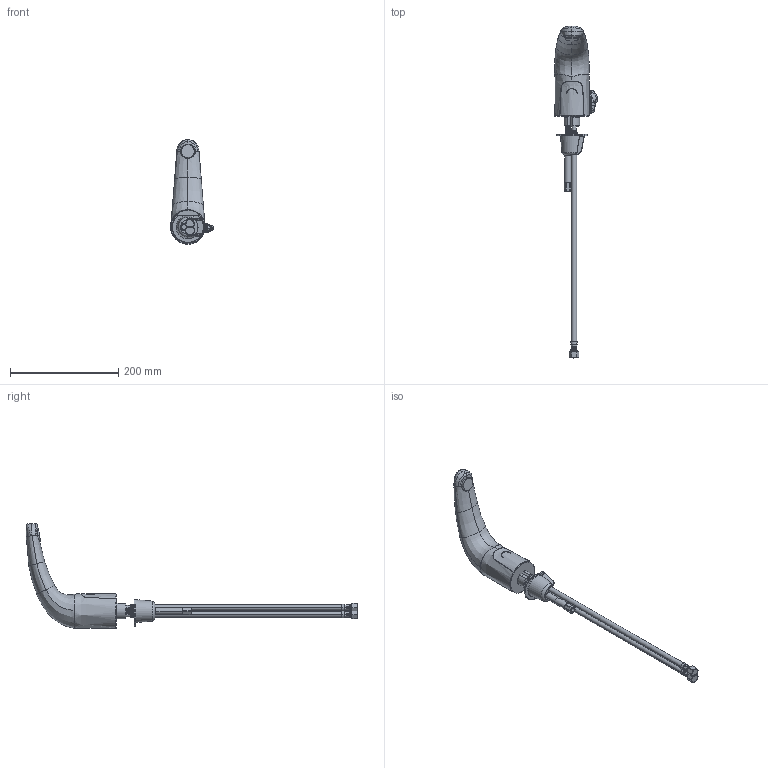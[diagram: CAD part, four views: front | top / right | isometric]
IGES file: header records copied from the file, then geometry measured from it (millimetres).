
Start section:  PTC IGES file: 116-221-AB-1_REV030810.igs
Global section: file name: 116-221-AB-1_REV030810.igs; native system: Pro/ENGINEER by Parametric Technology Corporation; preprocessor: 2009230; author: sdmitruk; organization: Unknown; date: 20100308.154038; units: inch
Bounding box: 79.69 x 614.28 x 193.38 mm (x, y, z)
Surface area: 128775 mm2 (no closed solid volume)
Topology: 0 solids, 50 shells, 614 faces, 1808 edges, 1207 vertices
Faces by surface type: revolution 327, bspline 287
